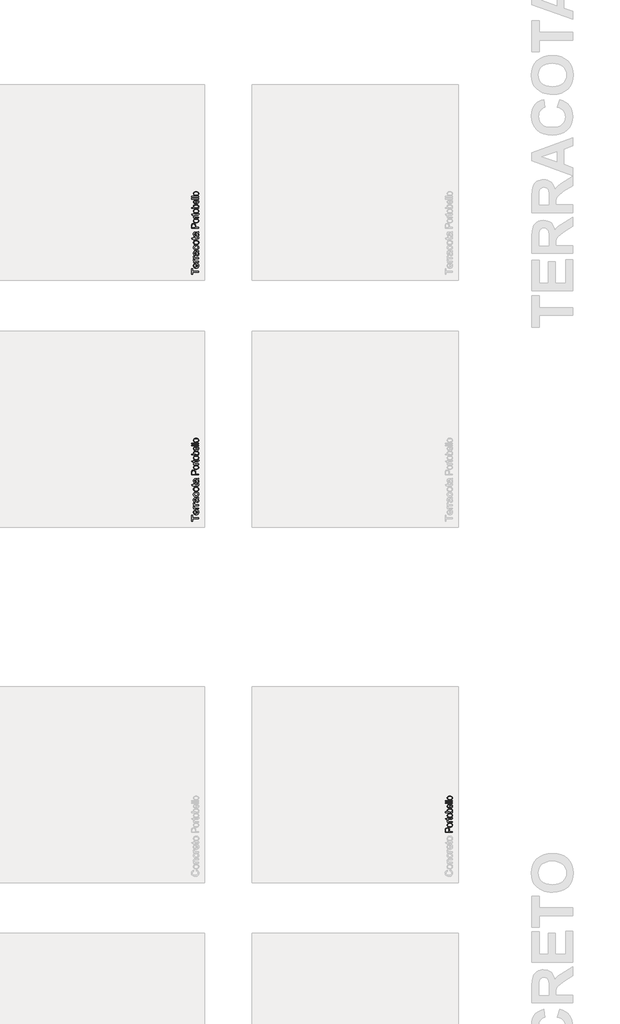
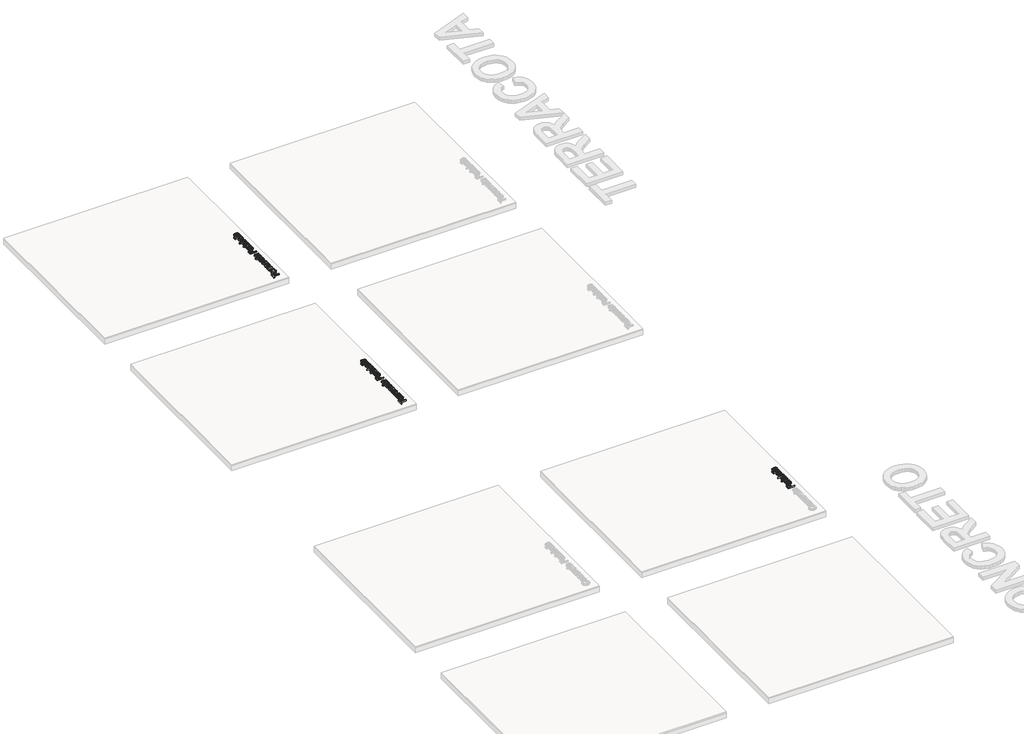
# One storey, part 9 of 12: 5 proxies.
"""IFC4 building model written with IfcOpenShell, lengths in millimetres."""

from ifc_helpers import new_model, si_unit, frame, origin, place, context, project, spatial, polyline, outline, extrude, element, save

model = new_model("IFC4")

# Units and contexts
model_context = context("Model", 3, world=origin())
ifc_project = project(units=[si_unit("LENGTHUNIT", "METRE", prefix="MILLI")], contexts=[model_context])

# Site, building, storey
site = spatial("IfcSite", under=ifc_project)
building = spatial("IfcBuilding", under=site)
storey = spatial("IfcBuildingStorey", under=building, Name="PORTOBELLO - SHOWROOM", Elevation=0.0)

# Proxies
placement = place(None, origin())
element("IfcBuildingElementProxy", 1, Name="10mm Arial", ObjectType="10mm Arial", at=placement, inside=storey, context=model_context, shape_type="SweptSolid", body=[
    extrude(outline(polyline([(-19269.6004774, 1957.1715522), (-19357.4997488, 1957.1715522), (-19357.4997488, 1924.2093254), (-19370.0567876, 1924.2093254), (-19370.0567876, 2002.6908177), (-19357.4997488, 2002.6908177), (-19357.4997488, 1969.7285909), (-19269.6004774, 1969.7285909), (-19269.6004774, 1957.1715522)])), frame((0.0, 0.0, 17.0), z_axis=(0.0, 0.0, 1.0), x_axis=(1.0, 0.0, 0.0)), (0.0, 0.0, 1.0), 20.0),
    extrude(outline(polyline([(-19291.5752953, 2066.8984886), (-19290.0056654, 2079.2102727), (-19280.7289078, 2074.774229), (-19273.7943322, 2067.6955663), (-19269.4717187, 2058.1337001), (-19268.0308476, 2046.2480459), (-19270.5171167, 2031.514372), (-19277.9759242, 2020.1774752), (-19289.922892, 2012.948594), (-19305.8736422, 2010.5389669), (-19322.3608869, 2012.9731195), (-19334.6910651, 2020.2755771), (-19342.3797988, 2031.4591897), (-19344.94271, 2045.5368074), (-19342.3859302, 2059.1760324), (-19334.7155906, 2070.0745365), (-19322.4099378, 2077.2206442), (-19305.9472185, 2079.6026802), (-19302.5627042, 2079.5291038), (-19302.5627042, 2023.0960057), (-19293.1633192, 2025.2695752), (-19286.2532691, 2030.3187555), (-19282.004232, 2037.6058847), (-19280.5878863, 2046.4933006), (-19283.2121112, 2058.8050847), (-19291.5752953, 2066.8984886)]), holes=[polyline([(-19315.119743, 2023.0960057), (-19315.119743, 2067.0456414), (-19326.4995593, 2062.0179208), (-19330.9141433, 2054.6970691), (-19332.3856713, 2045.4877565), (-19327.6890445, 2030.02445), (-19322.1984057, 2025.1592106), (-19315.119743, 2023.0960057)])]), frame((0.0, 0.0, 17.0), z_axis=(0.0, 0.0, 1.0), x_axis=(1.0, 0.0, 0.0)), (0.0, 0.0, 1.0), 20.0),
    extrude(outline(polyline([(-19269.6004774, 2092.1597189), (-19343.3730802, 2092.1597189), (-19343.3730802, 2103.1471279), (-19332.4592477, 2103.1471279), (-19342.5146889, 2110.9462262), (-19344.94271, 2118.7943754), (-19341.0676864, 2131.4004651), (-19329.8104973, 2127.2066103), (-19332.3856713, 2118.3774425), (-19329.9085992, 2111.27732), (-19323.0414686, 2106.7523714), (-19308.3752397, 2104.7167577), (-19269.6004774, 2104.7167577), (-19269.6004774, 2092.1597189)])), frame((0.0, 0.0, 17.0), z_axis=(0.0, 0.0, 1.0), x_axis=(1.0, 0.0, 0.0)), (0.0, 0.0, 1.0), 20.0),
    extrude(outline(polyline([(-19269.6004774, 2139.2486143), (-19343.3730802, 2139.2486143), (-19343.3730802, 2150.2360232), (-19332.4592477, 2150.2360232), (-19342.5146889, 2158.0351215), (-19344.94271, 2165.8832708), (-19341.0676864, 2178.4893605), (-19329.8104973, 2174.2955057), (-19332.3856713, 2165.4663378), (-19329.9085992, 2158.3662153), (-19323.0414686, 2153.8412668), (-19308.3752397, 2151.8056531), (-19269.6004774, 2151.8056531), (-19269.6004774, 2139.2486143)])), frame((0.0, 0.0, 17.0), z_axis=(0.0, 0.0, 1.0), x_axis=(1.0, 0.0, 0.0)), (0.0, 0.0, 1.0), 20.0),
    extrude(outline(polyline([(-19279.0182565, 2233.4264051), (-19270.5079197, 2221.249511), (-19268.0308476, 2207.7972928), (-19269.5207697, 2197.3034588), (-19273.9905359, 2189.5626085), (-19280.7779587, 2184.7893396), (-19289.2208505, 2183.19825), (-19299.1536644, 2185.6017457), (-19306.3641515, 2191.9170533), (-19310.4844298, 2200.709433), (-19312.3728907, 2211.5742146), (-19316.6893728, 2233.3528287), (-19319.485276, 2233.4264051), (-19328.7559023, 2229.9683143), (-19332.3856713, 2216.0869004), (-19329.9699128, 2203.3827088), (-19321.3982623, 2197.3249186), (-19322.9678922, 2184.7678799), (-19335.2306254, 2190.2002707), (-19342.416587, 2201.1386286), (-19344.94271, 2217.7055812), (-19342.7108926, 2232.923633), (-19337.1068235, 2241.519809), (-19328.584224, 2245.3703072), (-19317.5968151, 2245.9834439), (-19301.974093, 2245.9834439), (-19280.1586907, 2246.621106), (-19269.6004774, 2249.1227035), (-19269.6004774, 2236.5656648), (-19279.0182565, 2233.4264051)]), holes=[polyline([(-19304.132334, 2233.4264051), (-19300.2818358, 2213.1683699), (-19298.2462221, 2202.364902), (-19294.9352842, 2197.4720714), (-19290.1037673, 2195.7552888), (-19283.3102131, 2199.4954224), (-19280.5878863, 2210.4705686), (-19283.592256, 2223.1747602), (-19290.8640567, 2231.3662659), (-19300.5761414, 2233.3528287), (-19304.132334, 2233.4264051)])]), frame((0.0, 0.0, 17.0), z_axis=(0.0, 0.0, 1.0), x_axis=(1.0, 0.0, 0.0)), (0.0, 0.0, 1.0), 20.0),
    extrude(outline(polyline([(-19296.2841848, 2310.3382675), (-19294.714555, 2322.8953063), (-19283.5462707, 2319.394296), (-19275.1064446, 2312.8153396), (-19269.7997468, 2303.7777053), (-19268.0308476, 2292.900661), (-19270.4987226, 2279.5434789), (-19277.9023478, 2269.0986959), (-19289.9167606, 2262.3572583), (-19306.2169987, 2260.1101125), (-19327.0759078, 2263.948348), (-19340.4790752, 2275.6469954), (-19344.94271, 2292.7289827), (-19343.4098684, 2303.3393126), (-19338.8113435, 2311.8220583), (-19331.3923899, 2317.9074396), (-19321.3982623, 2321.3256765), (-19319.8286325, 2308.7686377), (-19329.2341488, 2302.9438394), (-19332.3856713, 2292.8270846), (-19330.8344355, 2284.7122209), (-19326.1807283, 2278.2712203), (-19318.1731635, 2274.0681685), (-19306.5603552, 2272.6671512), (-19294.791197, 2274.0375117), (-19286.7560411, 2278.148593), (-19282.129925, 2284.4730976), (-19280.5878863, 2292.483728), (-19284.4383846, 2304.3172656), (-19296.2841848, 2310.3382675)])), frame((0.0, 0.0, 17.0), z_axis=(0.0, 0.0, 1.0), x_axis=(1.0, 0.0, 0.0)), (0.0, 0.0, 1.0), 20.0),
    extrude(outline(polyline([(-19306.4867788, 2330.7434555), (-19324.2738733, 2333.4596509), (-19336.7757297, 2341.6082371), (-19342.900965, 2351.6759411), (-19344.94271, 2363.7302078), (-19342.4564409, 2376.921843), (-19334.9976334, 2387.4585965), (-19323.1548989, 2394.3655809), (-19307.5168484, 2396.6679091), (-19285.1741486, 2392.5966817), (-19272.5312707, 2380.7386187), (-19268.0308476, 2363.7302078), (-19270.5079197, 2350.379157), (-19277.939136, 2339.8546663), (-19290.0301909, 2333.0212582), (-19306.4867788, 2330.7434555)]), holes=[polyline([(-19306.5113043, 2343.3004943), (-19295.1468163, 2344.7536282), (-19287.0503467, 2349.1130298), (-19282.2035014, 2355.6735921), (-19280.5878863, 2363.7302078), (-19282.2126985, 2371.7500353), (-19287.0871349, 2378.2983348), (-19295.2909034, 2382.6577364), (-19306.9037117, 2384.1108703), (-19317.9371059, 2382.6485394), (-19325.9232109, 2378.2615466), (-19330.7700562, 2371.70405), (-19332.3856713, 2363.7302078), (-19330.7761875, 2355.6735921), (-19325.9477364, 2349.1130298), (-19317.8696609, 2344.7536282), (-19306.5113043, 2343.3004943)])]), frame((0.0, 0.0, 17.0), z_axis=(0.0, 0.0, 1.0), x_axis=(1.0, 0.0, 0.0)), (0.0, 0.0, 1.0), 20.0),
    extrude(outline(polyline([(-19280.0728516, 2437.4782851), (-19269.2325954, 2439.0479149), (-19268.0308476, 2429.6546613), (-19270.1155122, 2419.1332363), (-19275.5846912, 2413.8847865), (-19289.8339872, 2412.3642075), (-19330.8160414, 2412.3642075), (-19330.8160414, 2402.9464285), (-19343.3730802, 2402.9464285), (-19343.3730802, 2412.3642075), (-19361.3011961, 2412.3642075), (-19368.6833615, 2424.9212463), (-19343.3730802, 2424.9212463), (-19343.3730802, 2437.4782851), (-19330.8160414, 2437.4782851), (-19330.8160414, 2424.9212463), (-19290.2018692, 2424.9212463), (-19283.727146, 2425.5834339), (-19281.4340149, 2427.7294122), (-19280.5878863, 2432.0091061), (-19280.0728516, 2437.4782851)])), frame((0.0, 0.0, 17.0), z_axis=(0.0, 0.0, 1.0), x_axis=(1.0, 0.0, 0.0)), (0.0, 0.0, 1.0), 20.0),
    extrude(outline(polyline([(-19279.0182565, 2497.1242192), (-19270.5079197, 2484.9473252), (-19268.0308476, 2471.4951069), (-19269.5207697, 2461.001273), (-19273.9905359, 2453.2604227), (-19280.7779587, 2448.4871538), (-19289.2208505, 2446.8960642), (-19299.1536644, 2449.2995599), (-19306.3641515, 2455.6148674), (-19310.4844298, 2464.4072471), (-19312.3728907, 2475.2720287), (-19316.6893728, 2497.0506428), (-19319.485276, 2497.1242192), (-19328.7559023, 2493.6661285), (-19332.3856713, 2479.7847145), (-19329.9699128, 2467.080523), (-19321.3982623, 2461.0227328), (-19322.9678922, 2448.465694), (-19335.2306254, 2453.8980848), (-19342.416587, 2464.8364428), (-19344.94271, 2481.4033953), (-19342.7108926, 2496.6214472), (-19337.1068235, 2505.2176231), (-19328.584224, 2509.0681213), (-19317.5968151, 2509.681258), (-19301.974093, 2509.681258), (-19280.1586907, 2510.3189201), (-19269.6004774, 2512.8205177), (-19269.6004774, 2500.2634789), (-19279.0182565, 2497.1242192)]), holes=[polyline([(-19304.132334, 2497.1242192), (-19300.2818358, 2476.866184), (-19298.2462221, 2466.0627161), (-19294.9352842, 2461.1698856), (-19290.1037673, 2459.4531029), (-19283.3102131, 2463.1932365), (-19280.5878863, 2474.1683827), (-19283.592256, 2486.8725743), (-19290.8640567, 2495.0640801), (-19300.5761414, 2497.0506428), (-19304.132334, 2497.1242192)])]), frame((0.0, 0.0, 17.0), z_axis=(0.0, 0.0, 1.0), x_axis=(1.0, 0.0, 0.0)), (0.0, 0.0, 1.0), 20.0),
])
element("IfcBuildingElementProxy", 2, Name="10mm Arial", ObjectType="10mm Arial", at=placement, inside=storey, context=model_context, shape_type="SweptSolid", body=[
    extrude(outline(polyline([(-19269.6004774, 5357.1715522), (-19357.4997488, 5357.1715522), (-19357.4997488, 5324.2093254), (-19370.0567876, 5324.2093254), (-19370.0567876, 5402.6908177), (-19357.4997488, 5402.6908177), (-19357.4997488, 5369.7285909), (-19269.6004774, 5369.7285909), (-19269.6004774, 5357.1715522)])), frame((0.0, 0.0, 17.0), z_axis=(0.0, 0.0, 1.0), x_axis=(1.0, 0.0, 0.0)), (0.0, 0.0, 1.0), 20.0),
    extrude(outline(polyline([(-19291.5752953, 5466.8984886), (-19290.0056654, 5479.2102727), (-19280.7289078, 5474.774229), (-19273.7943322, 5467.6955663), (-19269.4717187, 5458.1337001), (-19268.0308476, 5446.2480459), (-19270.5171167, 5431.514372), (-19277.9759242, 5420.1774752), (-19289.922892, 5412.948594), (-19305.8736422, 5410.5389669), (-19322.3608869, 5412.9731195), (-19334.6910651, 5420.2755771), (-19342.3797988, 5431.4591897), (-19344.94271, 5445.5368074), (-19342.3859302, 5459.1760324), (-19334.7155906, 5470.0745365), (-19322.4099378, 5477.2206442), (-19305.9472185, 5479.6026802), (-19302.5627042, 5479.5291038), (-19302.5627042, 5423.0960057), (-19293.1633192, 5425.2695752), (-19286.2532691, 5430.3187555), (-19282.004232, 5437.6058847), (-19280.5878863, 5446.4933006), (-19283.2121112, 5458.8050847), (-19291.5752953, 5466.8984886)]), holes=[polyline([(-19315.119743, 5423.0960057), (-19315.119743, 5467.0456414), (-19326.4995593, 5462.0179208), (-19330.9141433, 5454.6970691), (-19332.3856713, 5445.4877565), (-19327.6890445, 5430.02445), (-19322.1984057, 5425.1592106), (-19315.119743, 5423.0960057)])]), frame((0.0, 0.0, 17.0), z_axis=(0.0, 0.0, 1.0), x_axis=(1.0, 0.0, 0.0)), (0.0, 0.0, 1.0), 20.0),
    extrude(outline(polyline([(-19269.6004774, 5492.1597189), (-19343.3730802, 5492.1597189), (-19343.3730802, 5503.1471279), (-19332.4592477, 5503.1471279), (-19342.5146889, 5510.9462262), (-19344.94271, 5518.7943754), (-19341.0676864, 5531.4004651), (-19329.8104973, 5527.2066103), (-19332.3856713, 5518.3774425), (-19329.9085992, 5511.27732), (-19323.0414686, 5506.7523714), (-19308.3752397, 5504.7167577), (-19269.6004774, 5504.7167577), (-19269.6004774, 5492.1597189)])), frame((0.0, 0.0, 17.0), z_axis=(0.0, 0.0, 1.0), x_axis=(1.0, 0.0, 0.0)), (0.0, 0.0, 1.0), 20.0),
    extrude(outline(polyline([(-19269.6004774, 5539.2486143), (-19343.3730802, 5539.2486143), (-19343.3730802, 5550.2360232), (-19332.4592477, 5550.2360232), (-19342.5146889, 5558.0351215), (-19344.94271, 5565.8832708), (-19341.0676864, 5578.4893605), (-19329.8104973, 5574.2955057), (-19332.3856713, 5565.4663378), (-19329.9085992, 5558.3662153), (-19323.0414686, 5553.8412668), (-19308.3752397, 5551.8056531), (-19269.6004774, 5551.8056531), (-19269.6004774, 5539.2486143)])), frame((0.0, 0.0, 17.0), z_axis=(0.0, 0.0, 1.0), x_axis=(1.0, 0.0, 0.0)), (0.0, 0.0, 1.0), 20.0),
    extrude(outline(polyline([(-19279.0182565, 5633.4264051), (-19270.5079197, 5621.249511), (-19268.0308476, 5607.7972928), (-19269.5207697, 5597.3034588), (-19273.9905359, 5589.5626085), (-19280.7779587, 5584.7893396), (-19289.2208505, 5583.19825), (-19299.1536644, 5585.6017457), (-19306.3641515, 5591.9170533), (-19310.4844298, 5600.709433), (-19312.3728907, 5611.5742146), (-19316.6893728, 5633.3528287), (-19319.485276, 5633.4264051), (-19328.7559023, 5629.9683143), (-19332.3856713, 5616.0869004), (-19329.9699128, 5603.3827088), (-19321.3982623, 5597.3249186), (-19322.9678922, 5584.7678799), (-19335.2306254, 5590.2002707), (-19342.416587, 5601.1386286), (-19344.94271, 5617.7055812), (-19342.7108926, 5632.923633), (-19337.1068235, 5641.519809), (-19328.584224, 5645.3703072), (-19317.5968151, 5645.9834439), (-19301.974093, 5645.9834439), (-19280.1586907, 5646.621106), (-19269.6004774, 5649.1227035), (-19269.6004774, 5636.5656648), (-19279.0182565, 5633.4264051)]), holes=[polyline([(-19304.132334, 5633.4264051), (-19300.2818358, 5613.1683699), (-19298.2462221, 5602.364902), (-19294.9352842, 5597.4720714), (-19290.1037673, 5595.7552888), (-19283.3102131, 5599.4954224), (-19280.5878863, 5610.4705686), (-19283.592256, 5623.1747602), (-19290.8640567, 5631.3662659), (-19300.5761414, 5633.3528287), (-19304.132334, 5633.4264051)])]), frame((0.0, 0.0, 17.0), z_axis=(0.0, 0.0, 1.0), x_axis=(1.0, 0.0, 0.0)), (0.0, 0.0, 1.0), 20.0),
    extrude(outline(polyline([(-19296.2841848, 5710.3382675), (-19294.714555, 5722.8953063), (-19283.5462707, 5719.394296), (-19275.1064446, 5712.8153396), (-19269.7997468, 5703.7777053), (-19268.0308476, 5692.900661), (-19270.4987226, 5679.5434789), (-19277.9023478, 5669.0986959), (-19289.9167606, 5662.3572583), (-19306.2169987, 5660.1101125), (-19327.0759078, 5663.948348), (-19340.4790752, 5675.6469954), (-19344.94271, 5692.7289827), (-19343.4098684, 5703.3393126), (-19338.8113435, 5711.8220583), (-19331.3923899, 5717.9074396), (-19321.3982623, 5721.3256765), (-19319.8286325, 5708.7686377), (-19329.2341488, 5702.9438394), (-19332.3856713, 5692.8270846), (-19330.8344355, 5684.7122209), (-19326.1807283, 5678.2712203), (-19318.1731635, 5674.0681685), (-19306.5603552, 5672.6671512), (-19294.791197, 5674.0375117), (-19286.7560411, 5678.148593), (-19282.129925, 5684.4730976), (-19280.5878863, 5692.483728), (-19284.4383846, 5704.3172656), (-19296.2841848, 5710.3382675)])), frame((0.0, 0.0, 17.0), z_axis=(0.0, 0.0, 1.0), x_axis=(1.0, 0.0, 0.0)), (0.0, 0.0, 1.0), 20.0),
    extrude(outline(polyline([(-19306.4867788, 5730.7434555), (-19324.2738733, 5733.4596509), (-19336.7757297, 5741.6082371), (-19342.900965, 5751.6759411), (-19344.94271, 5763.7302078), (-19342.4564409, 5776.921843), (-19334.9976334, 5787.4585965), (-19323.1548989, 5794.3655809), (-19307.5168484, 5796.6679091), (-19285.1741486, 5792.5966817), (-19272.5312707, 5780.7386187), (-19268.0308476, 5763.7302078), (-19270.5079197, 5750.379157), (-19277.939136, 5739.8546663), (-19290.0301909, 5733.0212582), (-19306.4867788, 5730.7434555)]), holes=[polyline([(-19306.5113043, 5743.3004943), (-19295.1468163, 5744.7536282), (-19287.0503467, 5749.1130298), (-19282.2035014, 5755.6735921), (-19280.5878863, 5763.7302078), (-19282.2126985, 5771.7500353), (-19287.0871349, 5778.2983348), (-19295.2909034, 5782.6577364), (-19306.9037117, 5784.1108703), (-19317.9371059, 5782.6485394), (-19325.9232109, 5778.2615466), (-19330.7700562, 5771.70405), (-19332.3856713, 5763.7302078), (-19330.7761875, 5755.6735921), (-19325.9477364, 5749.1130298), (-19317.8696609, 5744.7536282), (-19306.5113043, 5743.3004943)])]), frame((0.0, 0.0, 17.0), z_axis=(0.0, 0.0, 1.0), x_axis=(1.0, 0.0, 0.0)), (0.0, 0.0, 1.0), 20.0),
    extrude(outline(polyline([(-19280.0728516, 5837.4782851), (-19269.2325954, 5839.0479149), (-19268.0308476, 5829.6546613), (-19270.1155122, 5819.1332363), (-19275.5846912, 5813.8847865), (-19289.8339872, 5812.3642075), (-19330.8160414, 5812.3642075), (-19330.8160414, 5802.9464285), (-19343.3730802, 5802.9464285), (-19343.3730802, 5812.3642075), (-19361.3011961, 5812.3642075), (-19368.6833615, 5824.9212463), (-19343.3730802, 5824.9212463), (-19343.3730802, 5837.4782851), (-19330.8160414, 5837.4782851), (-19330.8160414, 5824.9212463), (-19290.2018692, 5824.9212463), (-19283.727146, 5825.5834339), (-19281.4340149, 5827.7294122), (-19280.5878863, 5832.0091061), (-19280.0728516, 5837.4782851)])), frame((0.0, 0.0, 17.0), z_axis=(0.0, 0.0, 1.0), x_axis=(1.0, 0.0, 0.0)), (0.0, 0.0, 1.0), 20.0),
    extrude(outline(polyline([(-19279.0182565, 5897.1242192), (-19270.5079197, 5884.9473252), (-19268.0308476, 5871.4951069), (-19269.5207697, 5861.001273), (-19273.9905359, 5853.2604227), (-19280.7779587, 5848.4871538), (-19289.2208505, 5846.8960642), (-19299.1536644, 5849.2995599), (-19306.3641515, 5855.6148674), (-19310.4844298, 5864.4072471), (-19312.3728907, 5875.2720287), (-19316.6893728, 5897.0506428), (-19319.485276, 5897.1242192), (-19328.7559023, 5893.6661285), (-19332.3856713, 5879.7847145), (-19329.9699128, 5867.080523), (-19321.3982623, 5861.0227328), (-19322.9678922, 5848.465694), (-19335.2306254, 5853.8980848), (-19342.416587, 5864.8364428), (-19344.94271, 5881.4033953), (-19342.7108926, 5896.6214472), (-19337.1068235, 5905.2176231), (-19328.584224, 5909.0681213), (-19317.5968151, 5909.681258), (-19301.974093, 5909.681258), (-19280.1586907, 5910.3189201), (-19269.6004774, 5912.8205177), (-19269.6004774, 5900.2634789), (-19279.0182565, 5897.1242192)]), holes=[polyline([(-19304.132334, 5897.1242192), (-19300.2818358, 5876.866184), (-19298.2462221, 5866.0627161), (-19294.9352842, 5861.1698856), (-19290.1037673, 5859.4531029), (-19283.3102131, 5863.1932365), (-19280.5878863, 5874.1683827), (-19283.592256, 5886.8725743), (-19290.8640567, 5895.0640801), (-19300.5761414, 5897.0506428), (-19304.132334, 5897.1242192)])]), frame((0.0, 0.0, 17.0), z_axis=(0.0, 0.0, 1.0), x_axis=(1.0, 0.0, 0.0)), (0.0, 0.0, 1.0), 20.0),
])
element("IfcBuildingElementProxy", 3, Name="10mm Arial Narrow", ObjectType="10mm Arial Narrow", at=placement, inside=storey, context=model_context, shape_type="SweptSolid", body=[
    extrude(outline(polyline([(-15769.6004774, -2365.6286257), (-15870.3190812, -2365.6286257), (-15870.3190812, -2334.3317411), (-15868.4407604, -2318.0360395), (-15858.9603173, -2306.5630534), (-15841.9412084, -2302.273375), (-15829.8653829, -2304.0596834), (-15820.2389891, -2309.4186086), (-15813.9377307, -2319.1623974), (-15811.8373113, -2334.1032966), (-15811.8373113, -2355.8816641), (-15769.6004774, -2355.8816641), (-15769.6004774, -2365.6286257)]), holes=[polyline([(-15823.2087665, -2355.8816641), (-15823.2087665, -2332.9103091), (-15827.7395807, -2317.0461137), (-15841.4081715, -2312.0203366), (-15851.5739479, -2314.4951511), (-15857.3738977, -2320.47278), (-15858.9476259, -2333.1387536), (-15858.9476259, -2355.8816641), (-15823.2087665, -2355.8816641)])]), frame((0.0, 0.0, 17.0), z_axis=(0.0, 0.0, 1.0), x_axis=(1.0, 0.0, 0.0)), (0.0, 0.0, 1.0), 20.0),
    extrude(outline(polyline([(-15806.1515836, -2294.1509069), (-15822.7423592, -2292.1964381), (-15834.694444, -2286.3330315), (-15841.9189986, -2277.4744647), (-15844.3271834, -2266.5345156), (-15841.9189986, -2255.72148), (-15834.694444, -2246.8375306), (-15822.9327295, -2240.8979758), (-15806.913065, -2238.9181242), (-15789.7511784, -2240.8630746), (-15777.6087233, -2246.6979257), (-15770.3841687, -2255.5469739), (-15767.9759838, -2266.5345156), (-15770.3905144, -2277.3951438), (-15777.634106, -2286.2695747), (-15789.5925365, -2292.1805739), (-15806.1515836, -2294.1509069)]), holes=[polyline([(-15806.1769663, -2284.4039453), (-15793.6252149, -2283.0999084), (-15784.7539569, -2279.1877978), (-15779.4806983, -2273.3466011), (-15777.7229455, -2266.2553058), (-15779.4965625, -2259.5352326), (-15784.8174137, -2253.8431593), (-15793.7045359, -2249.9596042), (-15806.1769663, -2248.6650859), (-15818.6906437, -2249.9691228), (-15827.5492104, -2253.8812333), (-15832.8224689, -2259.7224301), (-15834.5802218, -2266.8137254), (-15832.8129504, -2273.5813912), (-15827.5111363, -2279.263946), (-15818.6430511, -2283.1189455), (-15806.1769663, -2284.4039453)])]), frame((0.0, 0.0, 17.0), z_axis=(0.0, 0.0, 1.0), x_axis=(1.0, 0.0, 0.0)), (0.0, 0.0, 1.0), 20.0),
    extrude(outline(polyline([(-15777.7229455, -2167.4404054), (-15767.9759838, -2165.8159118), (-15767.9759838, -2173.1768985), (-15770.0954403, -2181.4516628), (-15775.8953902, -2185.766724), (-15790.5412154, -2186.9343288), (-15832.9557282, -2186.9343288), (-15832.9557282, -2195.0567968), (-15836.2047154, -2195.0567968), (-15831.3312346, -2196.6812904), (-15832.9557282, -2204.2453388), (-15830.63321, -2210.3244985), (-15824.1479269, -2214.1953621), (-15808.7406203, -2216.1752137), (-15769.6004774, -2216.1752137), (-15769.6004774, -2225.9221754), (-15842.7026898, -2225.9221754), (-15842.7026898, -2216.1752137), (-15833.0064936, -2216.1752137), (-15842.0935047, -2209.9310664), (-15844.3271834, -2203.5346228), (-15842.7026898, -2195.0567968), (-15842.7026898, -2186.9343288), (-15858.9476259, -2186.9343288), (-15867.070094, -2177.1873671), (-15842.7026898, -2177.1873671), (-15842.7026898, -2167.4404054), (-15832.9557282, -2167.4404054), (-15832.9557282, -2177.1873671), (-15788.3075366, -2177.1873671), (-15780.3119822, -2176.3243549), (-15777.7229455, -2171.7047012), (-15777.7229455, -2167.4404054)])), frame((0.0, 0.0, 17.0), z_axis=(0.0, 0.0, 1.0), x_axis=(1.0, 0.0, 0.0)), (0.0, 0.0, 1.0), 20.0),
    extrude(outline(polyline([(-15806.1515836, -2160.942431), (-15822.7423592, -2158.9879621), (-15834.694444, -2153.1245555), (-15841.9189986, -2144.2659888), (-15844.3271834, -2133.3260397), (-15841.9189986, -2122.5130041), (-15834.694444, -2113.6290547), (-15822.9327295, -2107.6894999), (-15806.913065, -2105.7096483), (-15789.7511784, -2107.6545987), (-15777.6087233, -2113.4894497), (-15770.3841687, -2122.3384979), (-15767.9759838, -2133.3260397), (-15770.3905144, -2144.1866678), (-15777.634106, -2153.0610987), (-15789.5925365, -2158.9720979), (-15806.1515836, -2160.942431)]), holes=[polyline([(-15806.1769663, -2151.1954694), (-15793.6252149, -2149.8914325), (-15784.7539569, -2145.9793219), (-15779.4806983, -2140.1381252), (-15777.7229455, -2133.0468298), (-15779.4965625, -2126.3267567), (-15784.8174137, -2120.6346833), (-15793.7045359, -2116.7511283), (-15806.1769663, -2115.45661), (-15818.6906437, -2116.7606468), (-15827.5492104, -2120.6727574), (-15832.8224689, -2126.5139542), (-15834.5802218, -2133.6052495), (-15832.8129504, -2140.3729153), (-15827.5111363, -2146.05547), (-15818.6430511, -2149.9104695), (-15806.1769663, -2151.1954694)])]), frame((0.0, 0.0, 17.0), z_axis=(0.0, 0.0, 1.0), x_axis=(1.0, 0.0, 0.0)), (0.0, 0.0, 1.0), 20.0),
    extrude(outline(polyline([(-15769.6004774, -2082.9667378), (-15769.6004774, -2092.7136994), (-15870.3190812, -2092.7136994), (-15870.3190812, -2082.9667378), (-15834.910197, -2082.9667378), (-15841.9919739, -2075.5676771), (-15844.3271834, -2066.3664437), (-15840.1263445, -2053.4847171), (-15827.3969141, -2044.2073356), (-15806.7100033, -2040.729904), (-15790.2556598, -2042.662163), (-15778.0529207, -2048.45894), (-15770.495218, -2056.8320623), (-15767.9759838, -2066.4933573), (-15770.5904032, -2075.8341955), (-15778.3575133, -2082.9667378), (-15769.6004774, -2082.9667378)]), holes=[polyline([(-15806.7100033, -2082.9667378), (-15789.4624501, -2080.8853553), (-15780.7307969, -2074.996566), (-15777.7229455, -2066.5441227), (-15779.5124267, -2060.6013951), (-15784.8808704, -2055.3630378), (-15806.3038799, -2050.4768656), (-15827.7395807, -2055.1853588), (-15832.8700615, -2060.4300618), (-15834.5802218, -2066.7471844), (-15832.7907405, -2072.7248132), (-15827.4222968, -2078.0171088), (-15806.7100033, -2082.9667378)])]), frame((0.0, 0.0, 17.0), z_axis=(0.0, 0.0, 1.0), x_axis=(1.0, 0.0, 0.0)), (0.0, 0.0, 1.0), 20.0),
    extrude(outline(polyline([(-15792.343388, -1988.7461085), (-15790.7188943, -1978.9991468), (-15780.8323278, -1982.6986772), (-15773.7124769, -1988.5176641), (-15769.4101071, -1996.2213173), (-15767.9759838, -2005.5748469), (-15770.3905144, -2017.1684009), (-15777.634106, -2026.3125232), (-15789.4402402, -2032.2520779), (-15805.5423985, -2034.2319295), (-15822.2093222, -2032.2425594), (-15834.3898514, -2026.2744491), (-15841.8428504, -2017.2604133), (-15844.3271834, -2006.1332666), (-15841.9285171, -1995.4503174), (-15834.7325181, -1986.7028001), (-15822.9930135, -1980.867949), (-15806.9638304, -1978.9229987), (-15803.7148432, -1978.9991468), (-15803.7148432, -2024.4849679), (-15784.2716853, -2018.4819563), (-15779.3601304, -2012.5519201), (-15777.7229455, -2005.4479334), (-15781.3780561, -1995.2694656), (-15792.343388, -1988.7461085)]), holes=[polyline([(-15813.4618049, -2023.8250173), (-15813.4618049, -1988.7461085), (-15827.7268894, -1993.0104042), (-15832.8668887, -1998.8357367), (-15834.5802218, -2006.0571185), (-15828.8691114, -2018.2662033), (-15813.4618049, -2023.8250173)])]), frame((0.0, 0.0, 17.0), z_axis=(0.0, 0.0, 1.0), x_axis=(1.0, 0.0, 0.0)), (0.0, 0.0, 1.0), 20.0),
    extrude(outline(polyline([(-15769.6004774, -1966.0031979), (-15870.3190812, -1966.0031979), (-15870.3190812, -1956.2562363), (-15769.6004774, -1956.2562363), (-15769.6004774, -1966.0031979)])), frame((0.0, 0.0, 17.0), z_axis=(0.0, 0.0, 1.0), x_axis=(1.0, 0.0, 0.0)), (0.0, 0.0, 1.0), 20.0),
    extrude(outline(polyline([(-15769.6004774, -1940.0113002), (-15870.3190812, -1940.0113002), (-15870.3190812, -1930.2643385), (-15769.6004774, -1930.2643385), (-15769.6004774, -1940.0113002)])), frame((0.0, 0.0, 17.0), z_axis=(0.0, 0.0, 1.0), x_axis=(1.0, 0.0, 0.0)), (0.0, 0.0, 1.0), 20.0),
    extrude(outline(polyline([(-15806.1515836, -1918.8928833), (-15822.7423592, -1916.9384144), (-15834.694444, -1911.0750078), (-15841.9189986, -1902.2164411), (-15844.3271834, -1891.2764919), (-15841.9189986, -1880.4634563), (-15834.694444, -1871.5795069), (-15822.9327295, -1865.6399522), (-15806.913065, -1863.6601006), (-15789.7511784, -1865.6050509), (-15777.6087233, -1871.439902), (-15770.3841687, -1880.2889502), (-15767.9759838, -1891.2764919), (-15770.3905144, -1902.1371201), (-15777.634106, -1911.011551), (-15789.5925365, -1916.9225502), (-15806.1515836, -1918.8928833)]), holes=[polyline([(-15806.1769663, -1909.1459216), (-15793.6252149, -1907.8418848), (-15784.7539569, -1903.9297742), (-15779.4806983, -1898.0885774), (-15777.7229455, -1890.9972821), (-15779.4965625, -1884.2772089), (-15784.8174137, -1878.5851356), (-15793.7045359, -1874.7015806), (-15806.1769663, -1873.4070622), (-15818.6906437, -1874.7110991), (-15827.5492104, -1878.6232097), (-15832.8224689, -1884.4644064), (-15834.5802218, -1891.5557018), (-15832.8129504, -1898.3233675), (-15827.5111363, -1904.0059223), (-15818.6430511, -1907.8609218), (-15806.1769663, -1909.1459216)])]), frame((0.0, 0.0, 17.0), z_axis=(0.0, 0.0, 1.0), x_axis=(1.0, 0.0, 0.0)), (0.0, 0.0, 1.0), 20.0),
])
element("IfcBuildingElementProxy", 4, Name="10mm Arial Narrow", ObjectType="10mm Arial Narrow", at=placement, inside=storey, context=model_context, shape_type="SweptSolid", body=[
    extrude(outline(polyline([(-19269.6004774, 2564.3713743), (-19370.3190812, 2564.3713743), (-19370.3190812, 2595.6682589), (-19368.4407604, 2611.9639605), (-19358.9603173, 2623.4369466), (-19341.9412084, 2627.726625), (-19329.8653829, 2625.9403166), (-19320.2389891, 2620.5813914), (-19313.9377307, 2610.8376026), (-19311.8373113, 2595.8967034), (-19311.8373113, 2574.1183359), (-19269.6004774, 2574.1183359), (-19269.6004774, 2564.3713743)]), holes=[polyline([(-19323.2087665, 2574.1183359), (-19323.2087665, 2597.0896909), (-19327.7395807, 2612.9538863), (-19341.4081715, 2617.9796634), (-19351.5739479, 2615.5048489), (-19357.3738977, 2609.52722), (-19358.9476259, 2596.8612464), (-19358.9476259, 2574.1183359), (-19323.2087665, 2574.1183359)])]), frame((0.0, 0.0, 17.0), z_axis=(0.0, 0.0, 1.0), x_axis=(1.0, 0.0, 0.0)), (0.0, 0.0, 1.0), 20.0),
    extrude(outline(polyline([(-19306.1515836, 2635.8490931), (-19322.7423592, 2637.8035619), (-19334.694444, 2643.6669685), (-19341.9189986, 2652.5255353), (-19344.3271834, 2663.4654844), (-19341.9189986, 2674.27852), (-19334.694444, 2683.1624694), (-19322.9327295, 2689.1020242), (-19306.913065, 2691.0818758), (-19289.7511784, 2689.1369254), (-19277.6087233, 2683.3020743), (-19270.3841687, 2674.4530261), (-19267.9759838, 2663.4654844), (-19270.3905144, 2652.6048562), (-19277.634106, 2643.7304253), (-19289.5925365, 2637.8194261), (-19306.1515836, 2635.8490931)]), holes=[polyline([(-19306.1769663, 2645.5960547), (-19293.6252149, 2646.9000916), (-19284.7539569, 2650.8122022), (-19279.4806983, 2656.6533989), (-19277.7229455, 2663.7446942), (-19279.4965625, 2670.4647674), (-19284.8174137, 2676.1568407), (-19293.7045359, 2680.0403958), (-19306.1769663, 2681.3349141), (-19318.6906437, 2680.0308772), (-19327.5492104, 2676.1187667), (-19332.8224689, 2670.2775699), (-19334.5802218, 2663.1862746), (-19332.8129504, 2656.4186088), (-19327.5111363, 2650.736054), (-19318.6430511, 2646.8810545), (-19306.1769663, 2645.5960547)])]), frame((0.0, 0.0, 17.0), z_axis=(0.0, 0.0, 1.0), x_axis=(1.0, 0.0, 0.0)), (0.0, 0.0, 1.0), 20.0),
    extrude(outline(polyline([(-19277.7229455, 2762.5595946), (-19267.9759838, 2764.1840882), (-19267.9759838, 2756.8231015), (-19270.0954403, 2748.5483372), (-19275.8953902, 2744.233276), (-19290.5412154, 2743.0656712), (-19332.9557282, 2743.0656712), (-19332.9557282, 2734.9432032), (-19336.2047154, 2734.9432032), (-19331.3312346, 2733.3187096), (-19332.9557282, 2725.7546612), (-19330.63321, 2719.6755015), (-19324.1479269, 2715.8046379), (-19308.7406203, 2713.8247863), (-19269.6004774, 2713.8247863), (-19269.6004774, 2704.0778246), (-19342.7026898, 2704.0778246), (-19342.7026898, 2713.8247863), (-19333.0064936, 2713.8247863), (-19342.0935047, 2720.0689336), (-19344.3271834, 2726.4653772), (-19342.7026898, 2734.9432032), (-19342.7026898, 2743.0656712), (-19358.9476259, 2743.0656712), (-19367.070094, 2752.8126329), (-19342.7026898, 2752.8126329), (-19342.7026898, 2762.5595946), (-19332.9557282, 2762.5595946), (-19332.9557282, 2752.8126329), (-19288.3075366, 2752.8126329), (-19280.3119822, 2753.6756451), (-19277.7229455, 2758.2952988), (-19277.7229455, 2762.5595946)])), frame((0.0, 0.0, 17.0), z_axis=(0.0, 0.0, 1.0), x_axis=(1.0, 0.0, 0.0)), (0.0, 0.0, 1.0), 20.0),
    extrude(outline(polyline([(-19306.1515836, 2769.057569), (-19322.7423592, 2771.0120379), (-19334.694444, 2776.8754445), (-19341.9189986, 2785.7340112), (-19344.3271834, 2796.6739603), (-19341.9189986, 2807.4869959), (-19334.694444, 2816.3709453), (-19322.9327295, 2822.3105001), (-19306.913065, 2824.2903517), (-19289.7511784, 2822.3454013), (-19277.6087233, 2816.5105503), (-19270.3841687, 2807.6615021), (-19267.9759838, 2796.6739603), (-19270.3905144, 2785.8133322), (-19277.634106, 2776.9389013), (-19289.5925365, 2771.0279021), (-19306.1515836, 2769.057569)]), holes=[polyline([(-19306.1769663, 2778.8045306), (-19293.6252149, 2780.1085675), (-19284.7539569, 2784.0206781), (-19279.4806983, 2789.8618748), (-19277.7229455, 2796.9531702), (-19279.4965625, 2803.6732433), (-19284.8174137, 2809.3653167), (-19293.7045359, 2813.2488717), (-19306.1769663, 2814.54339), (-19318.6906437, 2813.2393532), (-19327.5492104, 2809.3272426), (-19332.8224689, 2803.4860458), (-19334.5802218, 2796.3947505), (-19332.8129504, 2789.6270847), (-19327.5111363, 2783.94453), (-19318.6430511, 2780.0895305), (-19306.1769663, 2778.8045306)])]), frame((0.0, 0.0, 17.0), z_axis=(0.0, 0.0, 1.0), x_axis=(1.0, 0.0, 0.0)), (0.0, 0.0, 1.0), 20.0),
    extrude(outline(polyline([(-19269.6004774, 2847.0332622), (-19269.6004774, 2837.2863006), (-19370.3190812, 2837.2863006), (-19370.3190812, 2847.0332622), (-19334.910197, 2847.0332622), (-19341.9919739, 2854.4323229), (-19344.3271834, 2863.6335563), (-19340.1263445, 2876.5152829), (-19327.3969141, 2885.7926644), (-19306.7100033, 2889.270096), (-19290.2556598, 2887.337837), (-19278.0529207, 2881.54106), (-19270.495218, 2873.1679377), (-19267.9759838, 2863.5066427), (-19270.5904032, 2854.1658045), (-19278.3575133, 2847.0332622), (-19269.6004774, 2847.0332622)]), holes=[polyline([(-19306.7100033, 2847.0332622), (-19289.4624501, 2849.1146447), (-19280.7307969, 2855.003434), (-19277.7229455, 2863.4558773), (-19279.5124267, 2869.3986049), (-19284.8808704, 2874.6369622), (-19306.3038799, 2879.5231344), (-19327.7395807, 2874.8146412), (-19332.8700615, 2869.5699382), (-19334.5802218, 2863.2528156), (-19332.7907405, 2857.2751868), (-19327.4222968, 2851.9828912), (-19306.7100033, 2847.0332622)])]), frame((0.0, 0.0, 17.0), z_axis=(0.0, 0.0, 1.0), x_axis=(1.0, 0.0, 0.0)), (0.0, 0.0, 1.0), 20.0),
    extrude(outline(polyline([(-19292.343388, 2941.2538915), (-19290.7188943, 2951.0008532), (-19280.8323278, 2947.3013228), (-19273.7124769, 2941.4823359), (-19269.4101071, 2933.7786827), (-19267.9759838, 2924.4251531), (-19270.3905144, 2912.8315991), (-19277.634106, 2903.6874768), (-19289.4402402, 2897.7479221), (-19305.5423985, 2895.7680705), (-19322.2093222, 2897.7574406), (-19334.3898514, 2903.7255509), (-19341.8428504, 2912.7395867), (-19344.3271834, 2923.8667334), (-19341.9285171, 2934.5496826), (-19334.7325181, 2943.2971999), (-19322.9930135, 2949.132051), (-19306.9638304, 2951.0770013), (-19303.7148432, 2951.0008532), (-19303.7148432, 2905.5150321), (-19284.2716853, 2911.5180437), (-19279.3601304, 2917.4480799), (-19277.7229455, 2924.5520666), (-19281.3780561, 2934.7305344), (-19292.343388, 2941.2538915)]), holes=[polyline([(-19313.4618049, 2906.1749827), (-19313.4618049, 2941.2538915), (-19327.7268894, 2936.9895958), (-19332.8668887, 2931.1642633), (-19334.5802218, 2923.9428815), (-19328.8691114, 2911.7337967), (-19313.4618049, 2906.1749827)])]), frame((0.0, 0.0, 17.0), z_axis=(0.0, 0.0, 1.0), x_axis=(1.0, 0.0, 0.0)), (0.0, 0.0, 1.0), 20.0),
    extrude(outline(polyline([(-19269.6004774, 2963.9968021), (-19370.3190812, 2963.9968021), (-19370.3190812, 2973.7437637), (-19269.6004774, 2973.7437637), (-19269.6004774, 2963.9968021)])), frame((0.0, 0.0, 17.0), z_axis=(0.0, 0.0, 1.0), x_axis=(1.0, 0.0, 0.0)), (0.0, 0.0, 1.0), 20.0),
    extrude(outline(polyline([(-19269.6004774, 2989.9886998), (-19370.3190812, 2989.9886998), (-19370.3190812, 2999.7356615), (-19269.6004774, 2999.7356615), (-19269.6004774, 2989.9886998)])), frame((0.0, 0.0, 17.0), z_axis=(0.0, 0.0, 1.0), x_axis=(1.0, 0.0, 0.0)), (0.0, 0.0, 1.0), 20.0),
    extrude(outline(polyline([(-19306.1515836, 3011.1071167), (-19322.7423592, 3013.0615856), (-19334.694444, 3018.9249922), (-19341.9189986, 3027.7835589), (-19344.3271834, 3038.7235081), (-19341.9189986, 3049.5365437), (-19334.694444, 3058.4204931), (-19322.9327295, 3064.3600478), (-19306.913065, 3066.3398994), (-19289.7511784, 3064.3949491), (-19277.6087233, 3058.560098), (-19270.3841687, 3049.7110498), (-19267.9759838, 3038.7235081), (-19270.3905144, 3027.8628799), (-19277.634106, 3018.988449), (-19289.5925365, 3013.0774498), (-19306.1515836, 3011.1071167)]), holes=[polyline([(-19306.1769663, 3020.8540784), (-19293.6252149, 3022.1581152), (-19284.7539569, 3026.0702258), (-19279.4806983, 3031.9114226), (-19277.7229455, 3039.0027179), (-19279.4965625, 3045.7227911), (-19284.8174137, 3051.4148644), (-19293.7045359, 3055.2984194), (-19306.1769663, 3056.5929378), (-19318.6906437, 3055.2889009), (-19327.5492104, 3051.3767903), (-19332.8224689, 3045.5355936), (-19334.5802218, 3038.4442982), (-19332.8129504, 3031.6766325), (-19327.5111363, 3025.9940777), (-19318.6430511, 3022.1390782), (-19306.1769663, 3020.8540784)])]), frame((0.0, 0.0, 17.0), z_axis=(0.0, 0.0, 1.0), x_axis=(1.0, 0.0, 0.0)), (0.0, 0.0, 1.0), 20.0),
])
element("IfcBuildingElementProxy", 5, Name="10mm Arial Narrow", ObjectType="10mm Arial Narrow", at=placement, inside=storey, context=model_context, shape_type="SweptSolid", body=[
    extrude(outline(polyline([(-19269.6004774, 5964.3713743), (-19370.3190812, 5964.3713743), (-19370.3190812, 5995.6682589), (-19368.4407604, 6011.9639605), (-19358.9603173, 6023.4369466), (-19341.9412084, 6027.726625), (-19329.8653829, 6025.9403166), (-19320.2389891, 6020.5813914), (-19313.9377307, 6010.8376026), (-19311.8373113, 5995.8967034), (-19311.8373113, 5974.1183359), (-19269.6004774, 5974.1183359), (-19269.6004774, 5964.3713743)]), holes=[polyline([(-19323.2087665, 5974.1183359), (-19323.2087665, 5997.0896909), (-19327.7395807, 6012.9538863), (-19341.4081715, 6017.9796634), (-19351.5739479, 6015.5048489), (-19357.3738977, 6009.52722), (-19358.9476259, 5996.8612464), (-19358.9476259, 5974.1183359), (-19323.2087665, 5974.1183359)])]), frame((0.0, 0.0, 17.0), z_axis=(0.0, 0.0, 1.0), x_axis=(1.0, 0.0, 0.0)), (0.0, 0.0, 1.0), 20.0),
    extrude(outline(polyline([(-19306.1515836, 6035.8490931), (-19322.7423592, 6037.8035619), (-19334.694444, 6043.6669685), (-19341.9189986, 6052.5255353), (-19344.3271834, 6063.4654844), (-19341.9189986, 6074.27852), (-19334.694444, 6083.1624694), (-19322.9327295, 6089.1020242), (-19306.913065, 6091.0818758), (-19289.7511784, 6089.1369254), (-19277.6087233, 6083.3020743), (-19270.3841687, 6074.4530261), (-19267.9759838, 6063.4654844), (-19270.3905144, 6052.6048562), (-19277.634106, 6043.7304253), (-19289.5925365, 6037.8194261), (-19306.1515836, 6035.8490931)]), holes=[polyline([(-19306.1769663, 6045.5960547), (-19293.6252149, 6046.9000916), (-19284.7539569, 6050.8122022), (-19279.4806983, 6056.6533989), (-19277.7229455, 6063.7446942), (-19279.4965625, 6070.4647674), (-19284.8174137, 6076.1568407), (-19293.7045359, 6080.0403958), (-19306.1769663, 6081.3349141), (-19318.6906437, 6080.0308772), (-19327.5492104, 6076.1187667), (-19332.8224689, 6070.2775699), (-19334.5802218, 6063.1862746), (-19332.8129504, 6056.4186088), (-19327.5111363, 6050.736054), (-19318.6430511, 6046.8810545), (-19306.1769663, 6045.5960547)])]), frame((0.0, 0.0, 17.0), z_axis=(0.0, 0.0, 1.0), x_axis=(1.0, 0.0, 0.0)), (0.0, 0.0, 1.0), 20.0),
    extrude(outline(polyline([(-19277.7229455, 6162.5595946), (-19267.9759838, 6164.1840882), (-19267.9759838, 6156.8231015), (-19270.0954403, 6148.5483372), (-19275.8953902, 6144.233276), (-19290.5412154, 6143.0656712), (-19332.9557282, 6143.0656712), (-19332.9557282, 6134.9432032), (-19336.2047154, 6134.9432032), (-19331.3312346, 6133.3187096), (-19332.9557282, 6125.7546612), (-19330.63321, 6119.6755015), (-19324.1479269, 6115.8046379), (-19308.7406203, 6113.8247863), (-19269.6004774, 6113.8247863), (-19269.6004774, 6104.0778246), (-19342.7026898, 6104.0778246), (-19342.7026898, 6113.8247863), (-19333.0064936, 6113.8247863), (-19342.0935047, 6120.0689336), (-19344.3271834, 6126.4653772), (-19342.7026898, 6134.9432032), (-19342.7026898, 6143.0656712), (-19358.9476259, 6143.0656712), (-19367.070094, 6152.8126329), (-19342.7026898, 6152.8126329), (-19342.7026898, 6162.5595946), (-19332.9557282, 6162.5595946), (-19332.9557282, 6152.8126329), (-19288.3075366, 6152.8126329), (-19280.3119822, 6153.6756451), (-19277.7229455, 6158.2952988), (-19277.7229455, 6162.5595946)])), frame((0.0, 0.0, 17.0), z_axis=(0.0, 0.0, 1.0), x_axis=(1.0, 0.0, 0.0)), (0.0, 0.0, 1.0), 20.0),
    extrude(outline(polyline([(-19306.1515836, 6169.057569), (-19322.7423592, 6171.0120379), (-19334.694444, 6176.8754445), (-19341.9189986, 6185.7340112), (-19344.3271834, 6196.6739603), (-19341.9189986, 6207.4869959), (-19334.694444, 6216.3709453), (-19322.9327295, 6222.3105001), (-19306.913065, 6224.2903517), (-19289.7511784, 6222.3454013), (-19277.6087233, 6216.5105503), (-19270.3841687, 6207.6615021), (-19267.9759838, 6196.6739603), (-19270.3905144, 6185.8133322), (-19277.634106, 6176.9389013), (-19289.5925365, 6171.0279021), (-19306.1515836, 6169.057569)]), holes=[polyline([(-19306.1769663, 6178.8045306), (-19293.6252149, 6180.1085675), (-19284.7539569, 6184.0206781), (-19279.4806983, 6189.8618748), (-19277.7229455, 6196.9531702), (-19279.4965625, 6203.6732433), (-19284.8174137, 6209.3653167), (-19293.7045359, 6213.2488717), (-19306.1769663, 6214.54339), (-19318.6906437, 6213.2393532), (-19327.5492104, 6209.3272426), (-19332.8224689, 6203.4860458), (-19334.5802218, 6196.3947505), (-19332.8129504, 6189.6270847), (-19327.5111363, 6183.94453), (-19318.6430511, 6180.0895305), (-19306.1769663, 6178.8045306)])]), frame((0.0, 0.0, 17.0), z_axis=(0.0, 0.0, 1.0), x_axis=(1.0, 0.0, 0.0)), (0.0, 0.0, 1.0), 20.0),
    extrude(outline(polyline([(-19269.6004774, 6247.0332622), (-19269.6004774, 6237.2863006), (-19370.3190812, 6237.2863006), (-19370.3190812, 6247.0332622), (-19334.910197, 6247.0332622), (-19341.9919739, 6254.4323229), (-19344.3271834, 6263.6335563), (-19340.1263445, 6276.5152829), (-19327.3969141, 6285.7926644), (-19306.7100033, 6289.270096), (-19290.2556598, 6287.337837), (-19278.0529207, 6281.54106), (-19270.495218, 6273.1679377), (-19267.9759838, 6263.5066427), (-19270.5904032, 6254.1658045), (-19278.3575133, 6247.0332622), (-19269.6004774, 6247.0332622)]), holes=[polyline([(-19306.7100033, 6247.0332622), (-19289.4624501, 6249.1146447), (-19280.7307969, 6255.003434), (-19277.7229455, 6263.4558773), (-19279.5124267, 6269.3986049), (-19284.8808704, 6274.6369622), (-19306.3038799, 6279.5231344), (-19327.7395807, 6274.8146412), (-19332.8700615, 6269.5699382), (-19334.5802218, 6263.2528156), (-19332.7907405, 6257.2751868), (-19327.4222968, 6251.9828912), (-19306.7100033, 6247.0332622)])]), frame((0.0, 0.0, 17.0), z_axis=(0.0, 0.0, 1.0), x_axis=(1.0, 0.0, 0.0)), (0.0, 0.0, 1.0), 20.0),
    extrude(outline(polyline([(-19292.343388, 6341.2538915), (-19290.7188943, 6351.0008532), (-19280.8323278, 6347.3013228), (-19273.7124769, 6341.4823359), (-19269.4101071, 6333.7786827), (-19267.9759838, 6324.4251531), (-19270.3905144, 6312.8315991), (-19277.634106, 6303.6874768), (-19289.4402402, 6297.7479221), (-19305.5423985, 6295.7680705), (-19322.2093222, 6297.7574406), (-19334.3898514, 6303.7255509), (-19341.8428504, 6312.7395867), (-19344.3271834, 6323.8667334), (-19341.9285171, 6334.5496826), (-19334.7325181, 6343.2971999), (-19322.9930135, 6349.132051), (-19306.9638304, 6351.0770013), (-19303.7148432, 6351.0008532), (-19303.7148432, 6305.5150321), (-19284.2716853, 6311.5180437), (-19279.3601304, 6317.4480799), (-19277.7229455, 6324.5520666), (-19281.3780561, 6334.7305344), (-19292.343388, 6341.2538915)]), holes=[polyline([(-19313.4618049, 6306.1749827), (-19313.4618049, 6341.2538915), (-19327.7268894, 6336.9895958), (-19332.8668887, 6331.1642633), (-19334.5802218, 6323.9428815), (-19328.8691114, 6311.7337967), (-19313.4618049, 6306.1749827)])]), frame((0.0, 0.0, 17.0), z_axis=(0.0, 0.0, 1.0), x_axis=(1.0, 0.0, 0.0)), (0.0, 0.0, 1.0), 20.0),
    extrude(outline(polyline([(-19269.6004774, 6363.9968021), (-19370.3190812, 6363.9968021), (-19370.3190812, 6373.7437637), (-19269.6004774, 6373.7437637), (-19269.6004774, 6363.9968021)])), frame((0.0, 0.0, 17.0), z_axis=(0.0, 0.0, 1.0), x_axis=(1.0, 0.0, 0.0)), (0.0, 0.0, 1.0), 20.0),
    extrude(outline(polyline([(-19269.6004774, 6389.9886998), (-19370.3190812, 6389.9886998), (-19370.3190812, 6399.7356615), (-19269.6004774, 6399.7356615), (-19269.6004774, 6389.9886998)])), frame((0.0, 0.0, 17.0), z_axis=(0.0, 0.0, 1.0), x_axis=(1.0, 0.0, 0.0)), (0.0, 0.0, 1.0), 20.0),
    extrude(outline(polyline([(-19306.1515836, 6411.1071167), (-19322.7423592, 6413.0615856), (-19334.694444, 6418.9249922), (-19341.9189986, 6427.7835589), (-19344.3271834, 6438.7235081), (-19341.9189986, 6449.5365437), (-19334.694444, 6458.4204931), (-19322.9327295, 6464.3600478), (-19306.913065, 6466.3398994), (-19289.7511784, 6464.3949491), (-19277.6087233, 6458.560098), (-19270.3841687, 6449.7110498), (-19267.9759838, 6438.7235081), (-19270.3905144, 6427.8628799), (-19277.634106, 6418.988449), (-19289.5925365, 6413.0774498), (-19306.1515836, 6411.1071167)]), holes=[polyline([(-19306.1769663, 6420.8540784), (-19293.6252149, 6422.1581152), (-19284.7539569, 6426.0702258), (-19279.4806983, 6431.9114226), (-19277.7229455, 6439.0027179), (-19279.4965625, 6445.7227911), (-19284.8174137, 6451.4148644), (-19293.7045359, 6455.2984194), (-19306.1769663, 6456.5929378), (-19318.6906437, 6455.2889009), (-19327.5492104, 6451.3767903), (-19332.8224689, 6445.5355936), (-19334.5802218, 6438.4442982), (-19332.8129504, 6431.6766325), (-19327.5111363, 6425.9940777), (-19318.6430511, 6422.1390782), (-19306.1769663, 6420.8540784)])]), frame((0.0, 0.0, 17.0), z_axis=(0.0, 0.0, 1.0), x_axis=(1.0, 0.0, 0.0)), (0.0, 0.0, 1.0), 20.0),
])

save(model, "model.ifc")
